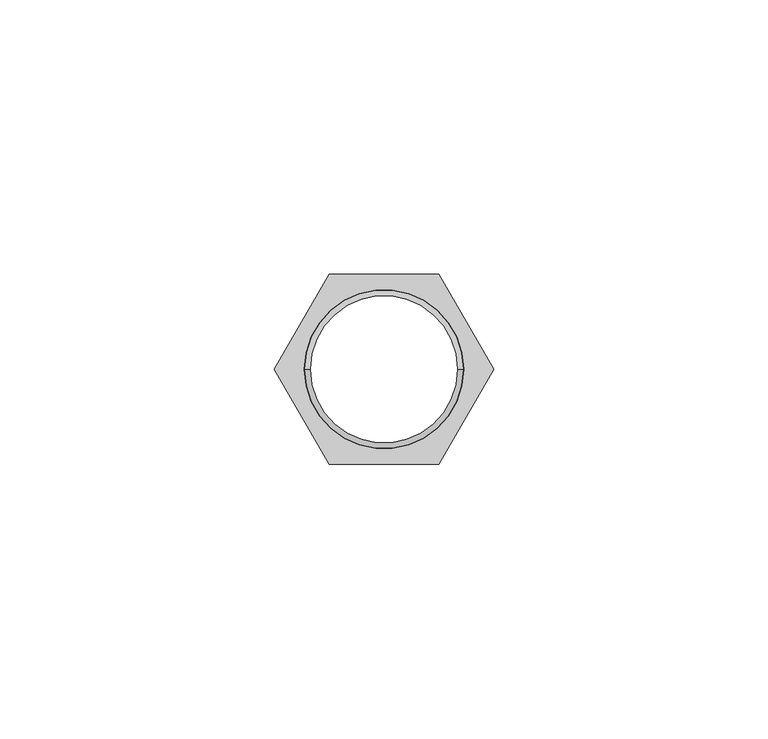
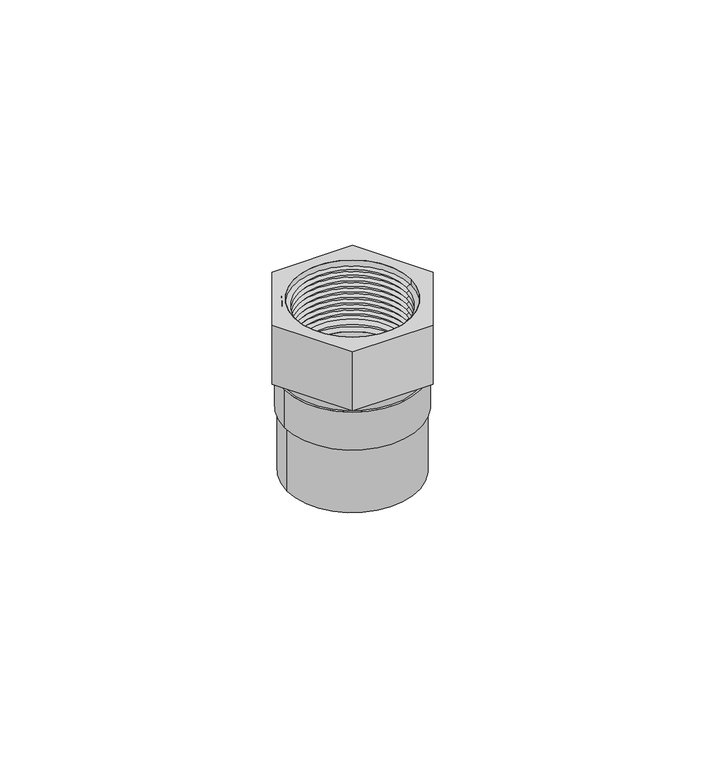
"""IFC4 building model written with IfcOpenShell, lengths in millimetres: valve geometry, Adaptador Hembra con Ins Metalico_Lubrizol_CPVC_FlowGuard_MX 25mm : Adaptador Hembra con Ins Metalico_Lubrizol_CPVC_FlowGuard_MX 25mm."""

from ifc_helpers import new_model, si_unit, point, frame, origin, origin_with_axes, origin_2d, place, context, project, spatial, polyline, circle_curve, trimmed, segment, composite_curve, outline, extrude, source, transform, mapped, element, save
from ifc_brep_helpers import plane_surface, cylinder_surface, revolved_surface, advanced_brep


def valve_06e1a133(model_context):
    return source(origin(), model_context, "Body", "SolidModel", [
        extrude(outline(composite_curve([segment(trimmed(circle_curve(origin_2d(), 16.3), [point((-16.3, 0.0))], [point((16.3, 0.0))], False, "CARTESIAN"), True, "CONTINUOUS"), segment(trimmed(circle_curve(origin_2d(), 16.3), [point((16.3, 0.0))], [point((-16.3, 0.0))], False, "CARTESIAN"), True, "CONTINUOUS")], self_intersect=False), holes=[composite_curve([segment(trimmed(circle_curve(origin_2d(), 15.3562272), [point((-15.3562272, 0.0))], [point((15.3562272, 0.0))], True, "CARTESIAN"), True, "CONTINUOUS"), segment(trimmed(circle_curve(origin_2d(), 15.3562272), [point((15.3562272, 0.0))], [point((-15.3562272, 0.0))], True, "CARTESIAN"), True, "CONTINUOUS")], self_intersect=False)]), frame((0.0, 0.0, 26.8023905), z_axis=(0.0, 0.0, 1.0), x_axis=(1.0, 0.0, 0.0)), (0.0, 0.0, 1.0), 2.6242663),
        extrude(outline(composite_curve([segment(trimmed(circle_curve(origin_2d(), 16.8646028), [point((-16.8646028, 0.0))], [point((16.8646028, 0.0))], False, "CARTESIAN"), True, "CONTINUOUS"), segment(trimmed(circle_curve(origin_2d(), 16.8646028), [point((16.8646028, 0.0))], [point((-16.8646028, 0.0))], False, "CARTESIAN"), True, "CONTINUOUS")], self_intersect=False), holes=[composite_curve([segment(trimmed(circle_curve(origin_2d(), 13.4417103), [point((-13.4417103, 0.0))], [point((13.4417103, 0.0))], True, "CARTESIAN"), True, "CONTINUOUS"), segment(trimmed(circle_curve(origin_2d(), 13.4417103), [point((13.4417103, 0.0))], [point((-13.4417103, 0.0))], True, "CARTESIAN"), True, "CONTINUOUS")], self_intersect=False)]), frame((0.0, 0.0, 16.8611414), z_axis=(0.0, 0.0, 1.0), x_axis=(1.0, 0.0, 0.0)), (0.0, 0.0, 1.0), 9.9412491),
        extrude(outline(polyline([(-10.0, -17.3205081), (-20.0, 0.0), (-10.0, 17.3205081), (10.0, 17.3205081), (20.0, 0.0), (10.0, -17.3205081), (-10.0, -17.3205081)]), holes=[composite_curve([segment(trimmed(circle_curve(origin_2d(), 14.5054229), [point((-14.5054229, 0.0))], [point((14.5054229, 0.0))], True, "CARTESIAN"), True, "CONTINUOUS"), segment(trimmed(circle_curve(origin_2d(), 14.5054229), [point((14.5054229, 0.0))], [point((-14.5054229, 0.0))], True, "CARTESIAN"), True, "CONTINUOUS")], self_intersect=False)]), frame((0.0, 0.0, 29.4266568), z_axis=(0.0, 0.0, 1.0), x_axis=(1.0, 0.0, 0.0)), (0.0, 0.0, 1.0), 15.4483432),
        advanced_brep(
        [(15.3562272, 0.0, 44.875), (-15.3562272, 0.0, 44.875), (-14.5054229, 0.0, 44.875), (14.5054229, 0.0, 44.875), (15.3562272, 0.0, 28.0251223), (-15.3562272, 0.0, 28.0251223), (14.4090846, 0.0, 28.0251223), (-14.4090846, 0.0, 28.0251223), (13.4417103, 0.0, 28.7024851), (-13.4417103, 0.0, 28.7024851), (14.4759345, 0.0, 29.4266568), (-14.4759345, 0.0, 29.4266568), (13.4417103, 0.0, 30.1508284), (-13.4417103, 0.0, 30.1508284), (14.4425096, 0.0, 30.8515956), (-14.4425096, 0.0, 30.8515956), (13.4417103, 0.0, 31.5523628), (-13.4417103, 0.0, 31.5523628), (14.4759345, 0.0, 32.2765344), (-14.4759345, 0.0, 32.2765344), (13.4417103, 0.0, 33.000706), (-13.4417103, 0.0, 33.000706), (14.4759345, 0.0, 33.7248777), (-14.4759345, 0.0, 33.7248777), (13.4417103, 0.0, 34.4490493), (-13.4417103, 0.0, 34.4490493), (14.4759345, 0.0, 35.1732209), (-14.4759345, 0.0, 35.1732209), (13.4417103, 0.0, 35.8973925), (-13.4417103, 0.0, 35.8973925), (14.4759345, 0.0, 36.6215641), (-14.4759345, 0.0, 36.6215641), (13.4417103, 0.0, 37.3457358), (-13.4417103, 0.0, 37.3457358), (14.4759345, 0.0, 38.0699074), (-14.4759345, 0.0, 38.0699074), (13.4417103, 0.0, 38.794079), (-13.4417103, 0.0, 38.794079), (14.4759345, 0.0, 39.5182506), (-14.4759345, 0.0, 39.5182506), (13.4417103, 0.0, 40.2424223), (-13.4417103, 0.0, 40.2424223), (14.4759345, 0.0, 40.9665939), (-14.4759345, 0.0, 40.9665939), (13.4417103, 0.0, 41.6907655), (-13.4417103, 0.0, 41.6907655), (14.4759345, 0.0, 42.4149371), (-14.4759345, 0.0, 42.4149371), (13.4417103, 0.0, 43.1391088), (-13.4417103, 0.0, 43.1391088), (14.5054229, 0.0, 43.8839284), (-14.5054229, 0.0, 43.8839284)],
        [
            (0, 1, circle_curve(frame((0.0, 0.0, 44.875), z_axis=(0.0, 0.0, 1.0), x_axis=(-1.0, 0.0, 0.0)), 15.3562272)),
            (1, 2),
            (2, 3, circle_curve(frame((0.0, 0.0, 44.875), z_axis=(0.0, 0.0, -1.0), x_axis=(-1.0, 0.0, 0.0)), 14.5054229)),
            (3, 0),
            (1, 0, circle_curve(frame((0.0, 0.0, 44.875), z_axis=(0.0, 0.0, 1.0), x_axis=(-1.0, 0.0, 0.0)), 15.3562272)),
            (3, 2, circle_curve(frame((0.0, 0.0, 44.875), z_axis=(0.0, 0.0, -1.0), x_axis=(-1.0, 0.0, 0.0)), 14.5054229)),
            (4, 5, circle_curve(frame((0.0, 0.0, 28.0251223), z_axis=(0.0, 0.0, 1.0), x_axis=(-1.0, 0.0, 0.0)), 15.3562272)),
            (5, 1),
            (0, 4),
            (5, 4, circle_curve(frame((0.0, 0.0, 28.0251223), z_axis=(0.0, 0.0, 1.0), x_axis=(-1.0, 0.0, 0.0)), 15.3562272)),
            (6, 7, circle_curve(frame((0.0, 0.0, 28.0251223), z_axis=(0.0, 0.0, 1.0), x_axis=(-1.0, 0.0, 0.0)), 14.4090846)),
            (7, 5),
            (4, 6),
            (7, 6, circle_curve(frame((0.0, 0.0, 28.0251223), z_axis=(0.0, 0.0, 1.0), x_axis=(-1.0, 0.0, 0.0)), 14.4090846)),
            (8, 9, circle_curve(frame((0.0, 0.0, 28.7024851), z_axis=(0.0, 0.0, 1.0), x_axis=(-1.0, 0.0, 0.0)), 13.4417103)),
            (9, 7),
            (6, 8),
            (9, 8, circle_curve(frame((0.0, 0.0, 28.7024851), z_axis=(0.0, 0.0, 1.0), x_axis=(-1.0, 0.0, 0.0)), 13.4417103)),
            (10, 11, circle_curve(frame((0.0, 0.0, 29.4266568), z_axis=(0.0, 0.0, 1.0), x_axis=(-1.0, 0.0, 0.0)), 14.4759345)),
            (11, 9),
            (8, 10),
            (11, 10, circle_curve(frame((0.0, 0.0, 29.4266568), z_axis=(0.0, 0.0, 1.0), x_axis=(-1.0, 0.0, 0.0)), 14.4759345)),
            (12, 13, circle_curve(frame((0.0, 0.0, 30.1508284), z_axis=(0.0, 0.0, 1.0), x_axis=(-1.0, 0.0, 0.0)), 13.4417103)),
            (13, 11),
            (10, 12),
            (13, 12, circle_curve(frame((0.0, 0.0, 30.1508284), z_axis=(0.0, 0.0, 1.0), x_axis=(-1.0, 0.0, 0.0)), 13.4417103)),
            (14, 15, circle_curve(frame((0.0, 0.0, 30.8515956), z_axis=(0.0, 0.0, 1.0), x_axis=(-1.0, 0.0, 0.0)), 14.4425096)),
            (15, 13),
            (12, 14),
            (15, 14, circle_curve(frame((0.0, 0.0, 30.8515956), z_axis=(0.0, 0.0, 1.0), x_axis=(-1.0, 0.0, 0.0)), 14.4425096)),
            (16, 17, circle_curve(frame((0.0, 0.0, 31.5523628), z_axis=(0.0, 0.0, 1.0), x_axis=(-1.0, 0.0, 0.0)), 13.4417103)),
            (17, 15),
            (14, 16),
            (17, 16, circle_curve(frame((0.0, 0.0, 31.5523628), z_axis=(0.0, 0.0, 1.0), x_axis=(-1.0, 0.0, 0.0)), 13.4417103)),
            (18, 19, circle_curve(frame((0.0, 0.0, 32.2765344), z_axis=(0.0, 0.0, 1.0), x_axis=(-1.0, 0.0, 0.0)), 14.4759345)),
            (19, 17),
            (16, 18),
            (19, 18, circle_curve(frame((0.0, 0.0, 32.2765344), z_axis=(0.0, 0.0, 1.0), x_axis=(-1.0, 0.0, 0.0)), 14.4759345)),
            (20, 21, circle_curve(frame((0.0, 0.0, 33.000706), z_axis=(0.0, 0.0, 1.0), x_axis=(-1.0, 0.0, 0.0)), 13.4417103)),
            (21, 19),
            (18, 20),
            (21, 20, circle_curve(frame((0.0, 0.0, 33.000706), z_axis=(0.0, 0.0, 1.0), x_axis=(-1.0, 0.0, 0.0)), 13.4417103)),
            (22, 23, circle_curve(frame((0.0, 0.0, 33.7248777), z_axis=(0.0, 0.0, 1.0), x_axis=(-1.0, 0.0, 0.0)), 14.4759345)),
            (23, 21),
            (20, 22),
            (23, 22, circle_curve(frame((0.0, 0.0, 33.7248777), z_axis=(0.0, 0.0, 1.0), x_axis=(-1.0, 0.0, 0.0)), 14.4759345)),
            (24, 25, circle_curve(frame((0.0, 0.0, 34.4490493), z_axis=(0.0, 0.0, 1.0), x_axis=(-1.0, 0.0, 0.0)), 13.4417103)),
            (25, 23),
            (22, 24),
            (25, 24, circle_curve(frame((0.0, 0.0, 34.4490493), z_axis=(0.0, 0.0, 1.0), x_axis=(-1.0, 0.0, 0.0)), 13.4417103)),
            (26, 27, circle_curve(frame((0.0, 0.0, 35.1732209), z_axis=(0.0, 0.0, 1.0), x_axis=(-1.0, 0.0, 0.0)), 14.4759345)),
            (27, 25),
            (24, 26),
            (27, 26, circle_curve(frame((0.0, 0.0, 35.1732209), z_axis=(0.0, 0.0, 1.0), x_axis=(-1.0, 0.0, 0.0)), 14.4759345)),
            (28, 29, circle_curve(frame((0.0, 0.0, 35.8973925), z_axis=(0.0, 0.0, 1.0), x_axis=(-1.0, 0.0, 0.0)), 13.4417103)),
            (29, 27),
            (26, 28),
            (29, 28, circle_curve(frame((0.0, 0.0, 35.8973925), z_axis=(0.0, 0.0, 1.0), x_axis=(-1.0, 0.0, 0.0)), 13.4417103)),
            (30, 31, circle_curve(frame((0.0, 0.0, 36.6215641), z_axis=(0.0, 0.0, 1.0), x_axis=(-1.0, 0.0, 0.0)), 14.4759345)),
            (31, 29),
            (28, 30),
            (31, 30, circle_curve(frame((0.0, 0.0, 36.6215641), z_axis=(0.0, 0.0, 1.0), x_axis=(-1.0, 0.0, 0.0)), 14.4759345)),
            (32, 33, circle_curve(frame((0.0, 0.0, 37.3457358), z_axis=(0.0, 0.0, 1.0), x_axis=(-1.0, 0.0, 0.0)), 13.4417103)),
            (33, 31),
            (30, 32),
            (33, 32, circle_curve(frame((0.0, 0.0, 37.3457358), z_axis=(0.0, 0.0, 1.0), x_axis=(-1.0, 0.0, 0.0)), 13.4417103)),
            (34, 35, circle_curve(frame((0.0, 0.0, 38.0699074), z_axis=(0.0, 0.0, 1.0), x_axis=(-1.0, 0.0, 0.0)), 14.4759345)),
            (35, 33),
            (32, 34),
            (35, 34, circle_curve(frame((0.0, 0.0, 38.0699074), z_axis=(0.0, 0.0, 1.0), x_axis=(-1.0, 0.0, 0.0)), 14.4759345)),
            (36, 37, circle_curve(frame((0.0, 0.0, 38.794079), z_axis=(0.0, 0.0, 1.0), x_axis=(-1.0, 0.0, 0.0)), 13.4417103)),
            (37, 35),
            (34, 36),
            (37, 36, circle_curve(frame((0.0, 0.0, 38.794079), z_axis=(0.0, 0.0, 1.0), x_axis=(-1.0, 0.0, 0.0)), 13.4417103)),
            (38, 39, circle_curve(frame((0.0, 0.0, 39.5182506), z_axis=(0.0, 0.0, 1.0), x_axis=(-1.0, 0.0, 0.0)), 14.4759345)),
            (39, 37),
            (36, 38),
            (39, 38, circle_curve(frame((0.0, 0.0, 39.5182506), z_axis=(0.0, 0.0, 1.0), x_axis=(-1.0, 0.0, 0.0)), 14.4759345)),
            (40, 41, circle_curve(frame((0.0, 0.0, 40.2424223), z_axis=(0.0, 0.0, 1.0), x_axis=(-1.0, 0.0, 0.0)), 13.4417103)),
            (41, 39),
            (38, 40),
            (41, 40, circle_curve(frame((0.0, 0.0, 40.2424223), z_axis=(0.0, 0.0, 1.0), x_axis=(-1.0, 0.0, 0.0)), 13.4417103)),
            (42, 43, circle_curve(frame((0.0, 0.0, 40.9665939), z_axis=(0.0, 0.0, 1.0), x_axis=(-1.0, 0.0, 0.0)), 14.4759345)),
            (43, 41),
            (40, 42),
            (43, 42, circle_curve(frame((0.0, 0.0, 40.9665939), z_axis=(0.0, 0.0, 1.0), x_axis=(-1.0, 0.0, 0.0)), 14.4759345)),
            (44, 45, circle_curve(frame((0.0, 0.0, 41.6907655), z_axis=(0.0, 0.0, 1.0), x_axis=(-1.0, 0.0, 0.0)), 13.4417103)),
            (45, 43),
            (42, 44),
            (45, 44, circle_curve(frame((0.0, 0.0, 41.6907655), z_axis=(0.0, 0.0, 1.0), x_axis=(-1.0, 0.0, 0.0)), 13.4417103)),
            (46, 47, circle_curve(frame((0.0, 0.0, 42.4149371), z_axis=(0.0, 0.0, 1.0), x_axis=(-1.0, 0.0, 0.0)), 14.4759345)),
            (47, 45),
            (44, 46),
            (47, 46, circle_curve(frame((0.0, 0.0, 42.4149371), z_axis=(0.0, 0.0, 1.0), x_axis=(-1.0, 0.0, 0.0)), 14.4759345)),
            (48, 49, circle_curve(frame((0.0, 0.0, 43.1391088), z_axis=(0.0, 0.0, 1.0), x_axis=(-1.0, 0.0, 0.0)), 13.4417103)),
            (49, 47),
            (46, 48),
            (49, 48, circle_curve(frame((0.0, 0.0, 43.1391088), z_axis=(0.0, 0.0, 1.0), x_axis=(-1.0, 0.0, 0.0)), 13.4417103)),
            (50, 51, circle_curve(frame((0.0, 0.0, 43.8839284), z_axis=(0.0, 0.0, 1.0), x_axis=(-1.0, 0.0, 0.0)), 14.5054229)),
            (51, 49),
            (48, 50),
            (51, 50, circle_curve(frame((0.0, 0.0, 43.8839284), z_axis=(0.0, 0.0, 1.0), x_axis=(-1.0, 0.0, 0.0)), 14.5054229)),
            (2, 51),
            (50, 3),
        ],
        [
            plane_surface(frame((0.0, 0.0, 44.875), z_axis=(0.0, 0.0, 1.0), x_axis=(-1.0, 0.0, 0.0))),
            cylinder_surface(frame((0.0, 0.0, 39.6339883), z_axis=(0.0, 0.0, -1.0), x_axis=(-1.0, 0.0, 0.0)), 15.3562272),
            plane_surface(frame((0.0, 0.0, 28.0251223), z_axis=(0.0, 0.0, -1.0), x_axis=(-1.0, 0.0, 0.0))),
            revolved_surface(polyline([(-14.4090846, 0.0, 28.0251223), (-13.4417103, 0.0, 28.7024851)]), (0.0, 0.0, 39.6339883), (0.0, 0.0, -1.0)),
            revolved_surface(polyline([(-13.4417103, 0.0, 28.7024851), (-14.4759345, 0.0, 29.4266568)]), (0.0, 0.0, 39.6339883), (0.0, 0.0, -1.0)),
            revolved_surface(polyline([(-14.4759345, 0.0, 29.4266568), (-13.4417103, 0.0, 30.1508284)]), (0.0, 0.0, 39.6339883), (0.0, 0.0, -1.0)),
            revolved_surface(polyline([(-13.4417103, 0.0, 30.1508284), (-14.4425096, 0.0, 30.8515956)]), (0.0, 0.0, 39.6339883), (0.0, 0.0, -1.0)),
            revolved_surface(polyline([(-14.4425096, 0.0, 30.8515956), (-13.4417103, 0.0, 31.5523628)]), (0.0, 0.0, 39.6339883), (0.0, 0.0, -1.0)),
            revolved_surface(polyline([(-13.4417103, 0.0, 31.5523628), (-14.4759345, 0.0, 32.2765344)]), (0.0, 0.0, 39.6339883), (0.0, 0.0, -1.0)),
            revolved_surface(polyline([(-14.4759345, 0.0, 32.2765344), (-13.4417103, 0.0, 33.000706)]), (0.0, 0.0, 39.6339883), (0.0, 0.0, -1.0)),
            revolved_surface(polyline([(-13.4417103, 0.0, 33.000706), (-14.4759345, 0.0, 33.7248777)]), (0.0, 0.0, 39.6339883), (0.0, 0.0, -1.0)),
            revolved_surface(polyline([(-14.4759345, 0.0, 33.7248777), (-13.4417103, 0.0, 34.4490493)]), (0.0, 0.0, 39.6339883), (0.0, 0.0, -1.0)),
            revolved_surface(polyline([(-13.4417103, 0.0, 34.4490493), (-14.4759345, 0.0, 35.1732209)]), (0.0, 0.0, 39.6339883), (0.0, 0.0, -1.0)),
            revolved_surface(polyline([(-14.4759345, 0.0, 35.1732209), (-13.4417103, 0.0, 35.8973925)]), (0.0, 0.0, 39.6339883), (0.0, 0.0, -1.0)),
            revolved_surface(polyline([(-13.4417103, 0.0, 35.8973925), (-14.4759345, 0.0, 36.6215641)]), (0.0, 0.0, 39.6339883), (0.0, 0.0, -1.0)),
            revolved_surface(polyline([(-14.4759345, 0.0, 36.6215641), (-13.4417103, 0.0, 37.3457358)]), (0.0, 0.0, 39.6339883), (0.0, 0.0, -1.0)),
            revolved_surface(polyline([(-13.4417103, 0.0, 37.3457358), (-14.4759345, 0.0, 38.0699074)]), (0.0, 0.0, 39.6339883), (0.0, 0.0, -1.0)),
            revolved_surface(polyline([(-14.4759345, 0.0, 38.0699074), (-13.4417103, 0.0, 38.794079)]), (0.0, 0.0, 39.6339883), (0.0, 0.0, -1.0)),
            revolved_surface(polyline([(-13.4417103, 0.0, 38.794079), (-14.4759345, 0.0, 39.5182506)]), (0.0, 0.0, 39.6339883), (0.0, 0.0, -1.0)),
            revolved_surface(polyline([(-14.4759345, 0.0, 39.5182506), (-13.4417103, 0.0, 40.2424223)]), (0.0, 0.0, 39.6339883), (0.0, 0.0, -1.0)),
            revolved_surface(polyline([(-13.4417103, 0.0, 40.2424223), (-14.4759345, 0.0, 40.9665939)]), (0.0, 0.0, 39.6339883), (0.0, 0.0, -1.0)),
            revolved_surface(polyline([(-14.4759345, 0.0, 40.9665939), (-13.4417103, 0.0, 41.6907655)]), (0.0, 0.0, 39.6339883), (0.0, 0.0, -1.0)),
            revolved_surface(polyline([(-13.4417103, 0.0, 41.6907655), (-14.4759345, 0.0, 42.4149371)]), (0.0, 0.0, 39.6339883), (0.0, 0.0, -1.0)),
            revolved_surface(polyline([(-14.4759345, 0.0, 42.4149371), (-13.4417103, 0.0, 43.1391088)]), (0.0, 0.0, 39.6339883), (0.0, 0.0, -1.0)),
            revolved_surface(polyline([(-13.4417103, 0.0, 43.1391088), (-14.5054229, 0.0, 43.8839284)]), (0.0, 0.0, 39.6339883), (0.0, 0.0, -1.0)),
            revolved_surface(polyline([(-14.5054229, 0.0, 43.8839284), (-14.5054229, 0.0, 44.875)]), (0.0, 0.0, 39.6339883), (0.0, 0.0, -1.0)),
        ],
        [
            (0, [[1, 2, 3, 4]]),
            (0, [[5, -4, 6, -2]]),
            (1, [[7, 8, -1, 9]]),
            (1, [[10, -9, -5, -8]]),
            (2, [[11, 12, -7, 13]]),
            (2, [[14, -13, -10, -12]]),
            (3, [[15, 16, -11, 17]]),
            (3, [[18, -17, -14, -16]]),
            (4, [[19, 20, -15, 21]]),
            (4, [[22, -21, -18, -20]]),
            (5, [[23, 24, -19, 25]]),
            (5, [[26, -25, -22, -24]]),
            (6, [[27, 28, -23, 29]]),
            (6, [[30, -29, -26, -28]]),
            (7, [[31, 32, -27, 33]]),
            (7, [[34, -33, -30, -32]]),
            (8, [[35, 36, -31, 37]]),
            (8, [[38, -37, -34, -36]]),
            (9, [[39, 40, -35, 41]]),
            (9, [[42, -41, -38, -40]]),
            (10, [[43, 44, -39, 45]]),
            (10, [[46, -45, -42, -44]]),
            (11, [[47, 48, -43, 49]]),
            (11, [[50, -49, -46, -48]]),
            (12, [[51, 52, -47, 53]]),
            (12, [[54, -53, -50, -52]]),
            (13, [[55, 56, -51, 57]]),
            (13, [[58, -57, -54, -56]]),
            (14, [[59, 60, -55, 61]]),
            (14, [[62, -61, -58, -60]]),
            (15, [[63, 64, -59, 65]]),
            (15, [[66, -65, -62, -64]]),
            (16, [[67, 68, -63, 69]]),
            (16, [[70, -69, -66, -68]]),
            (17, [[71, 72, -67, 73]]),
            (17, [[74, -73, -70, -72]]),
            (18, [[75, 76, -71, 77]]),
            (18, [[78, -77, -74, -76]]),
            (19, [[79, 80, -75, 81]]),
            (19, [[82, -81, -78, -80]]),
            (20, [[83, 84, -79, 85]]),
            (20, [[86, -85, -82, -84]]),
            (21, [[87, 88, -83, 89]]),
            (21, [[90, -89, -86, -88]]),
            (22, [[91, 92, -87, 93]]),
            (22, [[94, -93, -90, -92]]),
            (23, [[95, 96, -91, 97]]),
            (23, [[98, -97, -94, -96]]),
            (24, [[99, 100, -95, 101]]),
            (24, [[102, -101, -98, -100]]),
            (25, [[-3, 103, -99, 104]]),
            (25, [[-6, -104, -102, -103]]),
        ],
    ),
        extrude(outline(composite_curve([segment(trimmed(circle_curve(origin_2d(), 16.3), [point((-16.3, 0.0))], [point((16.3, 0.0))], False, "CARTESIAN"), True, "CONTINUOUS"), segment(trimmed(circle_curve(origin_2d(), 16.3), [point((16.3, 0.0))], [point((-16.3, 0.0))], False, "CARTESIAN"), True, "CONTINUOUS")], self_intersect=False), holes=[composite_curve([segment(trimmed(circle_curve(origin_2d(), 14.3), [point((-14.3, 0.0))], [point((14.3, 0.0))], True, "CARTESIAN"), True, "CONTINUOUS"), segment(trimmed(circle_curve(origin_2d(), 14.3), [point((14.3, 0.0))], [point((-14.3, 0.0))], True, "CARTESIAN"), True, "CONTINUOUS")], self_intersect=False)]), origin_with_axes(), (0.0, 0.0, 1.0), 16.8611414),
    ])


if __name__ == "__main__":
    model = new_model("IFC4")
    model_context = context("Model", 3, world=origin())
    ifc_project = project(units=[si_unit("LENGTHUNIT", "METRE", prefix="MILLI")], contexts=[model_context])
    site = spatial("IfcSite", under=ifc_project)
    building = spatial("IfcBuilding", under=site)
    placement = place(None, origin())
    valve_shape = valve_06e1a133(model_context)
    element("IfcValve", 1, ObjectType="Adaptador Hembra con Ins Metalico_Lubrizol_CPVC_FlowGuard_MX 25mm : Adaptador Hembra con Ins Metalico_Lubrizol_CPVC_FlowGuard_MX 25mm", at=placement, inside=building, context=model_context, shape_type="MappedRepresentation", body=[
        mapped(valve_shape, transform((0.0, 0.0, 0.0), x_axis=(1.0, 0.0, 0.0), y_axis=(0.0, 1.0, 0.0), z_axis=(0.0, 0.0, 1.0))),
    ])
    save(model, "model.ifc")
